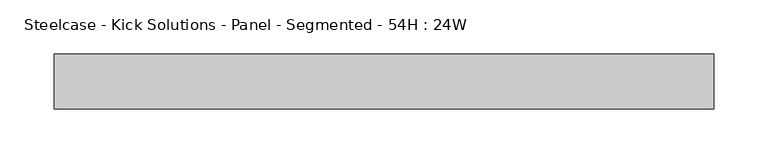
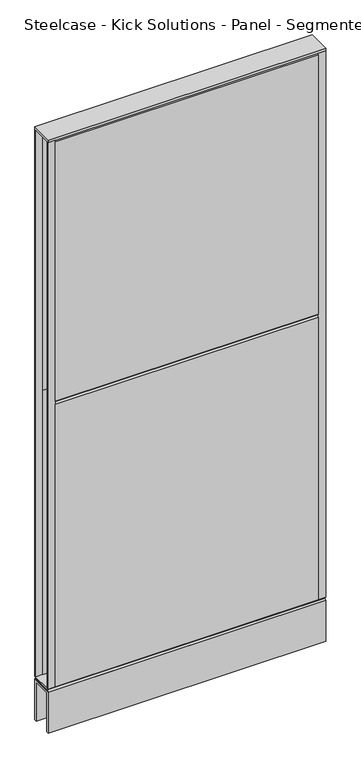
"""IFC4 building model written with IfcOpenShell, lengths in millimetres: furniture geometry, Steelcase - Kick Solutions - Panel - Segmented - 54H : 24W."""

from ifc_helpers import new_model, si_unit, frame, origin, place, context, project, spatial, polyline, outline, extrude, source, transform, mapped, element, save


def steelcase_kick_solutions_panel_segmented_54h_24w_d1e57a88(model_context):
    return source(origin(), model_context, "Body", "SweptSolid", [
        extrude(outline(polyline([(1.5e-06, 765.0811552), (-3.175, 762.0), (-3.175, 1371.6), (1.5e-06, 1368.5188448), (1.5e-06, 765.0811552)])), frame((15.8749996, 0.0, 0.0), z_axis=(1.0, 0.0, 0.0), x_axis=(0.0, 1.0, 0.0)), (0.0, 0.0, 1.0), 577.8500008),
        extrude(outline(polyline([(1.5e-06, 101.600003), (-3.175, 101.600003), (-3.175, 762.0), (1.5e-06, 758.9188448), (1.5e-06, 101.600003)])), frame((15.8749996, 0.0, 0.0), z_axis=(1.0, 0.0, 0.0), x_axis=(0.0, 1.0, 0.0)), (0.0, 0.0, 1.0), 577.8500008),
        extrude(outline(polyline([(-50.8000015, 765.0811552), (-50.8000015, 1368.5188448), (-47.625, 1371.6), (-47.625, 762.0), (-50.8000015, 765.0811552)])), frame((15.8749996, 0.0, 0.0), z_axis=(1.0, 0.0, 0.0), x_axis=(0.0, 1.0, 0.0)), (0.0, 0.0, 1.0), 577.8500008),
        extrude(outline(polyline([(-50.8000015, 101.600003), (-50.8000015, 758.9188448), (-47.625, 762.0), (-47.625, 101.600003), (-50.8000015, 101.600003)])), frame((15.8749996, 0.0, 0.0), z_axis=(1.0, 0.0, 0.0), x_axis=(0.0, 1.0, 0.0)), (0.0, 0.0, 1.0), 577.8500008),
        extrude(outline(polyline([(609.6, -3.1750015), (593.7250004, -3.1750015), (593.7250004, 0.0), (609.6, 0.0), (609.6, -3.1750015)])), frame((0.0, 0.0, 101.7169049), z_axis=(0.0, 0.0, 1.0), x_axis=(1.0, 0.0, 0.0)), (0.0, 0.0, 1.0), 1269.999997),
        extrude(outline(polyline([(15.8749996, -50.8000015), (0.0, -50.8000015), (0.0, -47.625), (15.8749996, -47.625), (15.8749996, -50.8000015)])), frame((0.0, 0.0, 101.7169049), z_axis=(0.0, 0.0, 1.0), x_axis=(1.0, 0.0, 0.0)), (0.0, 0.0, 1.0), 1269.999997),
        extrude(outline(polyline([(-50.7995075, 101.7169049), (-0.000494, 101.7169049), (-3.0583512, 98.5421458), (-47.7416503, 98.5421458), (-50.7995075, 101.7169049)])), frame((0.0, 0.0, 0.0), z_axis=(1.0, 0.0, 0.0), x_axis=(0.0, 1.0, 0.0)), (0.0, 0.0, 1.0), 609.6),
        extrude(outline(polyline([(609.6, 0.0), (609.6, -50.8000015), (0.0, -50.8000015), (0.0, 0.0), (609.6, 0.0)])), frame((0.0, 0.0, 1371.7169018), z_axis=(0.0, 0.0, 1.0), x_axis=(1.0, 0.0, 0.0)), (0.0, 0.0, 1.0), 6.35),
        extrude(outline(polyline([(15.8749996, -3.1750015), (0.0, -3.1750015), (0.0, 0.0), (15.8749996, 0.0), (15.8749996, -3.1750015)])), frame((0.0, 0.0, 101.7169049), z_axis=(0.0, 0.0, 1.0), x_axis=(1.0, 0.0, 0.0)), (0.0, 0.0, 1.0), 1269.999997),
        extrude(outline(polyline([(609.6, -50.8000015), (593.7250004, -50.8000015), (593.7250004, -47.625), (609.6, -47.625), (609.6, -50.8000015)])), frame((0.0, 0.0, 101.7169049), z_axis=(0.0, 0.0, 1.0), x_axis=(1.0, 0.0, 0.0)), (0.0, 0.0, 1.0), 1269.999997),
        extrude(outline(polyline([(-50.8000015, 95.3668927), (-47.6247484, 98.5421458), (-3.1752531, 98.5421458), (0.0, 95.3668927), (-50.8000015, 95.3668927)])), frame((0.0, 0.0, 0.0), z_axis=(1.0, 0.0, 0.0), x_axis=(0.0, 1.0, 0.0)), (0.0, 0.0, 1.0), 609.6),
        extrude(outline(polyline([(0.0, 0.0), (-5.08, 0.0), (-5.08, 90.2869018), (-45.7200015, 90.2869018), (-45.7200015, 0.0), (-50.8000015, 0.0), (-50.8000015, 95.3669018), (0.0, 95.3669018), (0.0, 0.0)])), frame((0.0, 0.0, 0.0), z_axis=(1.0, 0.0, 0.0), x_axis=(0.0, 1.0, 0.0)), (0.0, 0.0, 1.0), 609.6),
    ])


if __name__ == "__main__":
    model = new_model("IFC4")
    model_context = context("Model", 3, world=origin())
    ifc_project = project(units=[si_unit("LENGTHUNIT", "METRE", prefix="MILLI")], contexts=[model_context])
    site = spatial("IfcSite", under=ifc_project)
    building = spatial("IfcBuilding", under=site)
    placement = place(None, origin())
    steelcase_kick_solutions_panel_segmented_54h_24w_shape = steelcase_kick_solutions_panel_segmented_54h_24w_d1e57a88(model_context)
    element("IfcFurniture", 1, ObjectType="Steelcase - Kick Solutions - Panel - Segmented - 54H : 24W", at=placement, inside=building, context=model_context, shape_type="MappedRepresentation", body=[
        mapped(steelcase_kick_solutions_panel_segmented_54h_24w_shape, transform((0.0, 0.0, 0.0), x_axis=(1.0, 0.0, 0.0), y_axis=(0.0, 1.0, 0.0), z_axis=(0.0, 0.0, 1.0))),
    ])
    save(model, "model.ifc")
